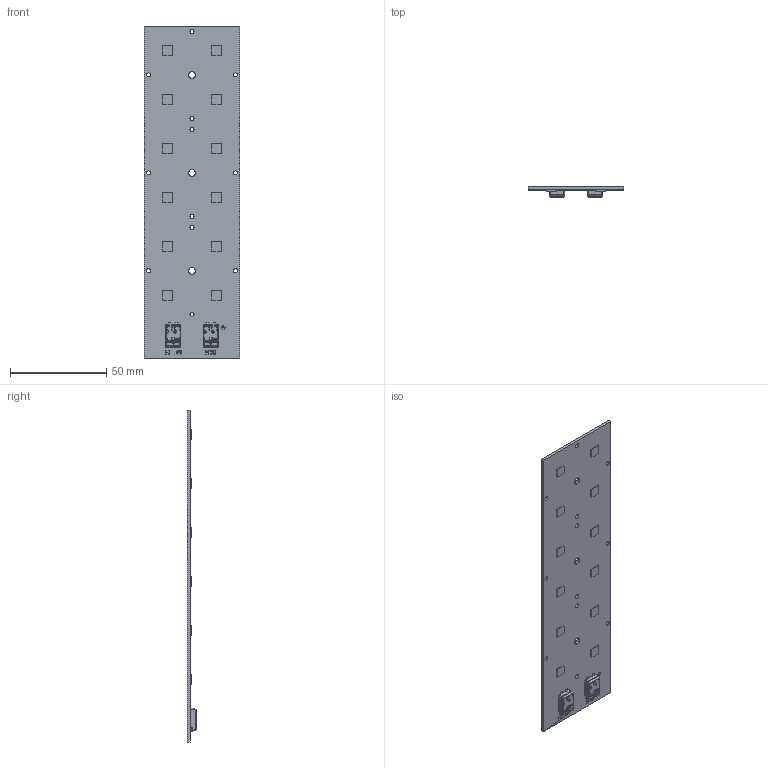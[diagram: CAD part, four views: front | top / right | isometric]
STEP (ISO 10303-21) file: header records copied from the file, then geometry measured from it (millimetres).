
FILE_DESCRIPTION(/* description */ ('Unknown'),/* implementation_level */ '2;1');
FILE_NAME(/* name */ 'RecLED 173x50mm 2x6 5050 sh-000 2024-01-22',/* time_stamp */ '2024-01-22T10:26:13+01:00',/* author */ ('Unknown'),/* organization */ ('Unknown'),/* preprocessor_version */ 'ST-DEVELOPER v18.102',/* originating_system */ 'Solid Edge',/* authorisation */ 'Unknown');
FILE_SCHEMA (('AUTOMOTIVE_DESIGN {1 0 10303 214 3 1 1}'));
Length unit declared in the file: millimetre
Products named in the file (1): RecLED 173x50mm 2x6 5050 sh-000 2024-01-22
Bounding box: 49.5 x 4.95 x 172.2 mm (x, y, z)
Volume: 13386.7 mm3; surface area: 18615.5 mm2
Topology: 1 solids, 1 shells, 990 faces, 2577 edges, 1609 vertices
Faces by surface type: plane 467, cylinder 260, torus 104, cone 88, bspline 51, sphere 20
Full cylindrical faces by diameter (mm): 2.1 x12, 3.5 x3
Entity records: 38462 total; most frequent: CARTESIAN_POINT 9151, ORIENTED_EDGE 5018, DIRECTION 3960, EDGE_CURVE 2509, VERTEX_POINT 1584, AXIS2_PLACEMENT_3D 1348, LINE 1264, VECTOR 1264
